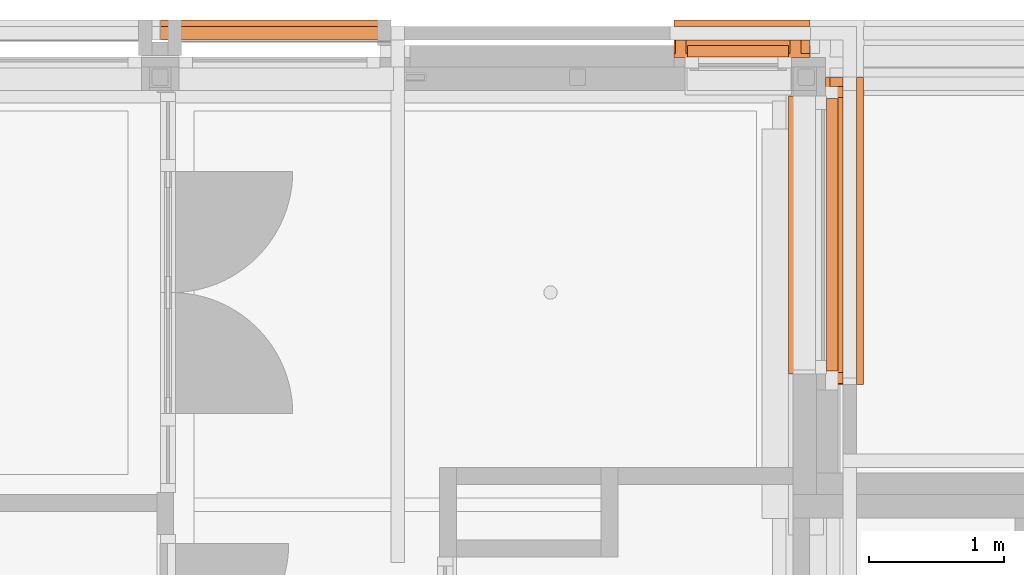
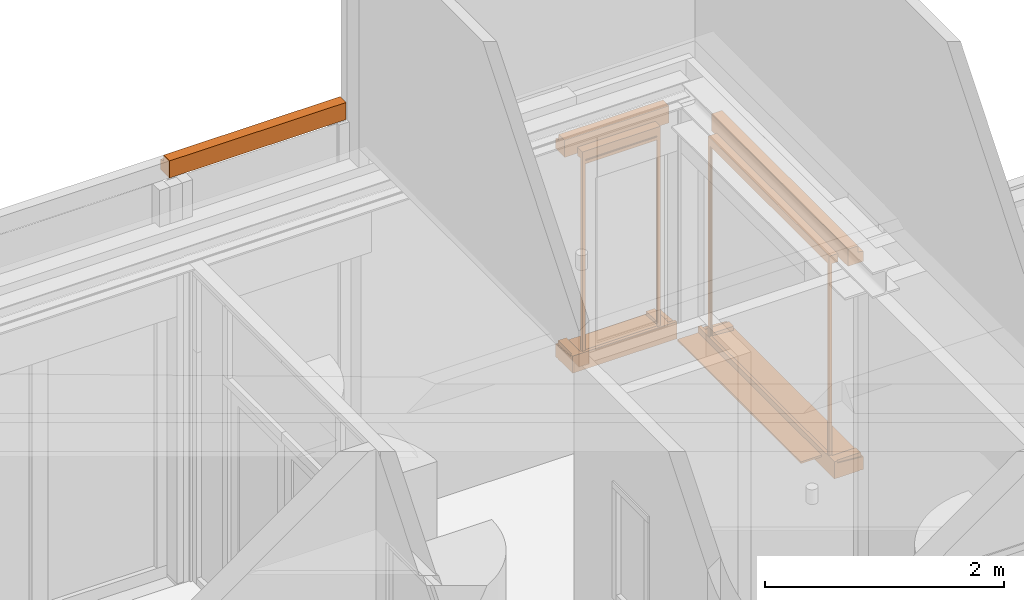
# One storey, part 121 of 128: 8 proxies.
"""IFC2X3 building model written with IfcOpenShell, lengths in millimetres."""

from ifc_helpers import new_model, entity, si_unit, converted_unit, derived_unit, direction, frame, frame_2d, origin, origin_2d_with_axis, place, context, subcontext, project, spatial, polyline, circle_curve, parameter, trimmed, segment, composite_curve, rectangle, outline, extrude, source, transform, mapped, material, material_list, type_object, type_shapes, element, save


model = new_model("IFC2X3")

# Units and contexts
model_context = context("Model", 3, precision=0.01, world=origin(), true_north=direction((6.123031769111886e-17, 1.0)))
body_context = subcontext(model_context, "Body", "Model", "MODEL_VIEW")
ifc_project = project(units=[si_unit("LENGTHUNIT", "METRE", prefix="MILLI"), si_unit("AREAUNIT", "SQUARE_METRE"), si_unit("VOLUMEUNIT", "CUBIC_METRE"), converted_unit("PLANEANGLEUNIT", "DEGREE", entity("IfcRatioMeasure", 0.017453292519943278), si_unit("PLANEANGLEUNIT", "RADIAN"), dimensions=[0, 0, 0, 0, 0, 0, 0]), si_unit("MASSUNIT", "GRAM", prefix="KILO"), derived_unit("MASSDENSITYUNIT", [(si_unit("MASSUNIT", "GRAM", prefix="KILO"), 1), (si_unit("LENGTHUNIT", "METRE"), -3)]), derived_unit("IONCONCENTRATIONUNIT", [(si_unit("MASSUNIT", "GRAM", prefix="KILO"), 1), (si_unit("LENGTHUNIT", "METRE"), -3)]), derived_unit("MOMENTOFINERTIAUNIT", [(si_unit("LENGTHUNIT", "METRE"), 4)]), si_unit("TIMEUNIT", "SECOND"), si_unit("FREQUENCYUNIT", "HERTZ"), si_unit("THERMODYNAMICTEMPERATUREUNIT", "DEGREE_CELSIUS"), derived_unit("THERMALTRANSMITTANCEUNIT", [(si_unit("MASSUNIT", "GRAM", prefix="KILO"), 1), (si_unit("THERMODYNAMICTEMPERATUREUNIT", "KELVIN"), -1), (si_unit("TIMEUNIT", "SECOND"), -3)]), derived_unit("THERMALCONDUCTANCEUNIT", [(si_unit("MASSUNIT", "GRAM", prefix="KILO"), 1), (si_unit("THERMODYNAMICTEMPERATUREUNIT", "KELVIN"), -1), (si_unit("TIMEUNIT", "SECOND"), -3), (si_unit("LENGTHUNIT", "METRE"), 1)]), derived_unit("VOLUMETRICFLOWRATEUNIT", [(si_unit("LENGTHUNIT", "METRE"), 3), (si_unit("TIMEUNIT", "SECOND"), -1)]), derived_unit("MASSFLOWRATEUNIT", [(si_unit("MASSUNIT", "GRAM", prefix="KILO"), 1), (si_unit("TIMEUNIT", "SECOND"), -1)]), derived_unit("ROTATIONALFREQUENCYUNIT", [(si_unit("TIMEUNIT", "SECOND"), -1)]), si_unit("ELECTRICCURRENTUNIT", "AMPERE"), si_unit("ELECTRICVOLTAGEUNIT", "VOLT"), si_unit("POWERUNIT", "WATT"), si_unit("FORCEUNIT", "NEWTON", prefix="KILO"), si_unit("ILLUMINANCEUNIT", "LUX"), si_unit("LUMINOUSFLUXUNIT", "LUMEN"), si_unit("LUMINOUSINTENSITYUNIT", "CANDELA"), derived_unit("USERDEFINED", [(si_unit("MASSUNIT", "GRAM", prefix="KILO"), -1), (si_unit("LENGTHUNIT", "METRE"), -2), (si_unit("TIMEUNIT", "SECOND"), 3), (si_unit("LUMINOUSFLUXUNIT", "LUMEN"), 1)]), derived_unit("USERDEFINED", [(si_unit("MASSUNIT", "GRAM", prefix="KILO"), 1), (si_unit("TIMEUNIT", "SECOND"), -3), (si_unit("LENGTHUNIT", "METRE"), 3), (si_unit("ELECTRICCURRENTUNIT", "AMPERE"), -2)]), derived_unit("SOUNDPOWERUNIT", [(si_unit("MASSUNIT", "GRAM", prefix="KILO"), 1), (si_unit("TIMEUNIT", "SECOND"), -3), (si_unit("LENGTHUNIT", "METRE"), 2)]), derived_unit("SOUNDPRESSUREUNIT", [(si_unit("MASSUNIT", "GRAM", prefix="KILO"), 1), (si_unit("LENGTHUNIT", "METRE"), -1), (si_unit("TIMEUNIT", "SECOND"), -2)]), derived_unit("LINEARVELOCITYUNIT", [(si_unit("LENGTHUNIT", "METRE"), 1), (si_unit("TIMEUNIT", "SECOND"), -1)]), si_unit("PRESSUREUNIT", "PASCAL"), derived_unit("USERDEFINED", [(si_unit("MASSUNIT", "GRAM", prefix="KILO"), 1), (si_unit("LENGTHUNIT", "METRE"), -2), (si_unit("TIMEUNIT", "SECOND"), -2)]), derived_unit("LINEARFORCEUNIT", [(si_unit("MASSUNIT", "GRAM", prefix="KILO"), 1), (si_unit("TIMEUNIT", "SECOND"), -2)]), derived_unit("PLANARFORCEUNIT", [(si_unit("MASSUNIT", "GRAM", prefix="KILO"), 1), (si_unit("LENGTHUNIT", "METRE"), -1), (si_unit("TIMEUNIT", "SECOND"), -2)]), derived_unit("SPECIFICHEATCAPACITYUNIT", [(si_unit("THERMODYNAMICTEMPERATUREUNIT", "KELVIN"), -1), (si_unit("LENGTHUNIT", "METRE"), 2), (si_unit("TIMEUNIT", "SECOND"), -2)]), derived_unit("HEATINGVALUEUNIT", [(si_unit("LENGTHUNIT", "METRE"), 2), (si_unit("TIMEUNIT", "SECOND"), -2)]), derived_unit("VAPORPERMEABILITYUNIT", [(si_unit("LENGTHUNIT", "METRE"), -1), (si_unit("TIMEUNIT", "SECOND"), 1)]), derived_unit("DYNAMICVISCOSITYUNIT", [(si_unit("MASSUNIT", "GRAM", prefix="KILO"), 1), (si_unit("TIMEUNIT", "SECOND"), -1), (si_unit("LENGTHUNIT", "METRE"), -1)]), derived_unit("THERMALEXPANSIONCOEFFICIENTUNIT", [(si_unit("THERMODYNAMICTEMPERATUREUNIT", "KELVIN"), -1)]), derived_unit("MODULUSOFELASTICITYUNIT", [(si_unit("MASSUNIT", "GRAM", prefix="KILO"), 1), (si_unit("LENGTHUNIT", "METRE"), -1), (si_unit("TIMEUNIT", "SECOND"), -2)]), derived_unit("ISOTHERMALMOISTURECAPACITYUNIT", [(si_unit("LENGTHUNIT", "METRE"), 3), (si_unit("MASSUNIT", "GRAM", prefix="KILO"), -1)]), derived_unit("MOISTUREDIFFUSIVITYUNIT", [(si_unit("TIMEUNIT", "SECOND"), -1), (si_unit("LENGTHUNIT", "METRE"), 2)])], contexts=[model_context])

# Site, building, storey
site_placement = place(None, frame((0.0, 300.0, 0.0)))
site = spatial("IfcSite", under=ifc_project, at=site_placement, Name="<Kadastrale nummers>", CompositionType="ELEMENT")
building_placement = place(site_placement, origin())
building = spatial("IfcBuilding", under=site, at=building_placement, CompositionType="ELEMENT")
storey_placement = place(building_placement, frame((0.0, 0.0, 3560.0000331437)))
storey = spatial("IfcBuildingStorey", under=building, at=storey_placement, Name="01 eerste verdieping", CompositionType="ELEMENT", Elevation=3560.0000331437)

# Proxies
ifc_material_1 = material(Name="STAAL_RAL 7006")
ifc_material_2 = material(Name="<Unnamed>")
ifc_material_list = material_list([ifc_material_1, ifc_material_2])
building_element_proxy_type_1 = type_object("IfcBuildingElementProxyType", Name="31_DAT_Screen_zonwering_bak85:31_DAT_Screen_zonwering_bak85", PredefinedType="NOTDEFINED", material=ifc_material_list)
shared_shape_1 = source(origin(), body_context, "Body", "SweptSolid", [
    extrude(outline(polyline([(-60.69864841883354, -53.573897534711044), (20.695945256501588, -53.573897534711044), (20.695945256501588, 1.1216926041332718), (22.501351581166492, 1.1216926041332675), (22.501351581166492, 24.626102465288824), (17.501351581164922, 24.626102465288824), (17.501351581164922, 27.826102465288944), (-60.69864841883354, 27.826102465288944), (-60.69864841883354, -53.573897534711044)])), frame((750.0, -29.62610246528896, 2772.5013515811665), z_axis=(1.0, 0.0, 0.0), x_axis=(0.0, 0.0, -1.0)), (0.0, 0.0, 1.0), 1.9999999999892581),
    extrude(outline(polyline([(-55.832432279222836, -51.08259835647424), (29.167567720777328, -51.08259835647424), (29.167567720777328, 5.412991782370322), (27.362161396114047, 5.412991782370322), (27.362161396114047, -49.28259835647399), (-54.032432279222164, -49.28259835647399), (-54.032432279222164, 32.117401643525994), (24.16756772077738, 32.117401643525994), (24.16756772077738, 28.91740164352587), (29.167567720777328, 28.91740164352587), (29.167567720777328, 33.917401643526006), (-55.832432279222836, 33.917401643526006), (-55.832432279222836, -51.08259835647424)])), frame((0.0, -33.917401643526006, 2779.1675677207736), z_axis=(1.0, 0.0, 0.0), x_axis=(0.0, 0.0, -1.0)), (0.0, 0.0, 1.0), 751.9999999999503),
    extrude(outline(polyline([(-60.69864841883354, -53.573897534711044), (20.695945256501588, -53.573897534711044), (20.695945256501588, 1.1216926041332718), (22.501351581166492, 1.1216926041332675), (22.501351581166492, 24.626102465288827), (17.501351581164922, 24.626102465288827), (17.501351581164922, 27.826102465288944), (-60.69864841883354, 27.826102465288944), (-60.69864841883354, -53.573897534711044)])), frame((0.0, -29.62610246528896, 2772.5013515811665), z_axis=(1.0, 0.0, 0.0), x_axis=(0.0, 0.0, -1.0)), (0.0, 0.0, 1.0), 1.999999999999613),
    extrude(rectangle(XDim=711.9999999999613, YDim=1.163311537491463, at=frame_2d((-2.842170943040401e-14, -2.1094237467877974e-15), x_axis=(1.0, 0.0))), frame((376.0, -20.037293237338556, 2725.117880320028)), (0.0, 0.0, 1.0), 24.882119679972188),
    extrude(outline(composite_curve([segment(polyline([(-7.502327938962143, -23.023758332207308), (7.497672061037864, -23.023758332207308)]), True, "CONTINUOUS"), segment(trimmed(circle_curve(frame_2d((7.497672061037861, -21.523758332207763), x_axis=(0.0, -1.0)), 1.4999999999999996), [parameter(359.99999999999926)], [parameter(90.00000000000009)], True, "PARAMETER"), True, "CONTINUOUS"), segment(polyline([(8.997672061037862, -21.523758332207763), (8.997672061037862, 8.976241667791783)]), True, "CONTINUOUS"), segment(trimmed(circle_curve(frame_2d((5.99767206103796, 8.976241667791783), x_axis=(0.0, -1.0)), 3.0), [parameter(90.00000000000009)], [parameter(172.84454900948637)], True, "PARAMETER"), True, "CONTINUOUS"), segment(polyline([(6.371357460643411, 11.952877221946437), (2.232090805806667, 12.470504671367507)]), True, "CONTINUOUS"), segment(trimmed(circle_curve(frame_2d((2.1399803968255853, 11.733933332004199), x_axis=(0.0, -1.0)), 0.7423083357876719), [parameter(172.87199730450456)], [parameter(323.5235343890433)], True, "PARAMETER"), True, "CONTINUOUS"), segment(trimmed(circle_curve(frame_2d((-0.0023279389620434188, 8.976241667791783), x_axis=(0.0, -1.0)), 2.75), [parameter(217.47327986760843)], [parameter(141.78969998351)], True, "PARAMETER"), False, "CONTINUOUS"), segment(trimmed(circle_curve(frame_2d((-2.144636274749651, 11.733933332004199), x_axis=(0.0, -1.0)), 0.7423083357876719), [parameter(39.207114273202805)], [parameter(187.12800269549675)], True, "PARAMETER"), True, "CONTINUOUS"), segment(polyline([(-2.2367466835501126, 12.470504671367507), (-6.376013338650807, 11.95287722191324)]), True, "CONTINUOUS"), segment(trimmed(circle_curve(frame_2d((-6.002327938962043, 8.976241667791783), x_axis=(0.0, -1.0)), 3.0), [parameter(187.1554509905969)], [parameter(269.9999999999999)], True, "PARAMETER"), True, "CONTINUOUS"), segment(polyline([(-9.002327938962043, 8.976241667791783), (-9.002327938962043, -21.523758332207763)]), True, "CONTINUOUS"), segment(trimmed(circle_curve(frame_2d((-7.502327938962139, -21.523758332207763), x_axis=(0.0, -1.0)), 1.5000000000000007), [parameter(269.9999999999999)], [parameter(359.9999999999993)], True, "PARAMETER"), True, "CONTINUOUS")], self_intersect=False)), frame((20.0, -19.997672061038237, 2718.141638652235), z_axis=(1.0, 0.0, 0.0), x_axis=(0.0, 1.0, 0.0)), (0.0, 0.0, 1.0), 711.9999999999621),
    extrude(outline(polyline([(-14.638298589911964, -16.231574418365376), (-13.138298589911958, -16.231574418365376), (-13.138298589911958, 12.232729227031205), (-6.116685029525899, 12.232729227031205), (-6.116685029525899, -6.231574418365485), (-1.116685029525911, -6.231574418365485), (-1.116685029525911, -4.769580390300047), (-4.579546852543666, -4.769580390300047), (-4.579546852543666, 12.23272922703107), (13.86611127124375, 12.23272922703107), (13.86611127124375, -4.769580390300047), (10.36170141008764, -4.769580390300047), (10.36170141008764, -6.2315744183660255), (15.36170141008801, -6.2315744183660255), (15.36170141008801, 13.768425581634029), (-14.638298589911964, 13.768425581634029), (-14.638298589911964, -16.231574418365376)])), frame((738.2315744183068, -14.638298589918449, 800.0), z_axis=(0.0, 0.0, 1.0), x_axis=(0.0, -1.0, 0.0)), (0.0, 0.0, 1.0), 1950.0000000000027),
    extrude(outline(polyline([(-16.231574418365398, -14.638298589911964), (13.768425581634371, -14.638298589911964), (13.76842558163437, 15.361701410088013), (-6.231574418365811, 15.361701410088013), (-6.231574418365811, 10.361701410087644), (-4.769580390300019, 10.361701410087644), (-4.769580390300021, 13.866111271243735), (12.2327292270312, 13.866111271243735), (12.2327292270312, -4.57954685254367), (-4.769580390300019, -4.57954685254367), (-4.769580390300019, -1.1166850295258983), (-6.231574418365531, -1.1166850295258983), (-6.231574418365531, -6.116685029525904), (12.232729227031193, -6.116685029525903), (12.232729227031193, -13.138298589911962), (-16.231574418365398, -13.138298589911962), (-16.231574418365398, -14.638298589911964)])), frame((13.768425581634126, -14.638298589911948, 800.0), z_axis=(0.0, 0.0, 1.0), x_axis=(-1.0, 0.0, 0.0)), (0.0, 0.0, 1.0), 1950.0000000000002),
])
type_shapes(building_element_proxy_type_1, [shared_shape_1])
proxy_1_placement = place(storey_placement, frame((41270.0, 49951.0, 100.00000187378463), z_axis=(0.0, 0.0, 1.0), x_axis=(-1.0, 0.0, 0.0)))
element("IfcBuildingElementProxy", 1, at=proxy_1_placement, inside=storey, type_object=building_element_proxy_type_1, material=ifc_material_list, Name="31_DAT_Screen_zonwering_bak85:31_DAT_Screen_zonwering_bak85", ObjectType="31_DAT_Screen_zonwering_bak85:31_DAT_Screen_zonwering_bak85", context=body_context, shape_type="MappedRepresentation", body=[
    mapped(shared_shape_1, transform((0.0, 0.0, 0.0), scale=1.0)),
])
ifc_material_3 = material(Name="ISR_Beton_prefab")
building_element_proxy_type_2 = type_object("IfcBuildingElementProxyType", Name="29_DAT_Prefab betonband afgeschuind:29_DAT_Prefab betonband afgeschuind", PredefinedType="NOTDEFINED", material=ifc_material_3)
shared_shape_2 = source(origin(), body_context, "Body", "SweptSolid", [
    extrude(outline(polyline([(-94.16666666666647, -83.33333333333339), (80.83333333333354, -83.33333333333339), (80.83333333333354, 16.66666666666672), (18.33333333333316, 16.666666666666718), (8.333333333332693, 66.66666666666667), (-94.16666666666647, 66.66666666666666), (-94.16666666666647, -83.33333333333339)])), frame((0.0, 16.66666666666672, -18.33333333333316), z_axis=(1.0, 0.0, 0.0), x_axis=(0.0, 0.0, 1.0)), (0.0, 0.0, 1.0), 1009.0000000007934),
])
type_shapes(building_element_proxy_type_2, [shared_shape_2])
proxy_2_placement = place(storey_placement, frame((41427.0, 50175.0, 2952.499966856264), z_axis=(0.0, 0.0, 1.0), x_axis=(-1.0, 0.0, 0.0)))
element("IfcBuildingElementProxy", 2, at=proxy_2_placement, inside=storey, type_object=building_element_proxy_type_2, material=ifc_material_3, Name="29_DAT_Prefab betonband afgeschuind:29_DAT_Prefab betonband afgeschuind", ObjectType="29_DAT_Prefab betonband afgeschuind:29_DAT_Prefab betonband afgeschuind", context=body_context, shape_type="MappedRepresentation", body=[
    mapped(shared_shape_2, transform((0.0, 0.0, 0.0), scale=1.0)),
])
building_element_proxy_type_3 = type_object("IfcBuildingElementProxyType", Name="29_DAT_Prefab betonnen waterslag lang:23", PredefinedType="NOTDEFINED", material=ifc_material_3)
shared_shape_3 = source(origin(), body_context, "Body", "SweptSolid", [
    extrude(outline(polyline([(-16.052237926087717, -115.0), (26.113434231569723, -115.0), (5.9910416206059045, 115.0), (-16.052237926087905, 115.0), (-16.052237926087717, -115.0)])), frame((2134.0, 75.0, -16.05223792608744), z_axis=(1.0, 0.0, 0.0), x_axis=(0.0, 0.0, -1.0)), (0.0, 0.0, 1.0), 79.99999999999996),
    extrude(outline(polyline([(-16.052237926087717, -115.0), (26.113434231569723, -115.0), (5.9910416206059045, 115.0), (-16.052237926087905, 115.0), (-16.052237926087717, -115.0)])), frame((10.0, 75.0, -16.05223792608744), z_axis=(1.0, 0.0, 0.0), x_axis=(0.0, 0.0, -1.0)), (0.0, 0.0, 1.0), 80.00000000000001),
    extrude(outline(composite_curve([segment(polyline([(-140.0, -95.7340207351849), (-110.0, -95.7340207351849)]), True, "CONTINUOUS"), segment(polyline([(-110.0, -95.7340207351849), (-110.0, -73.7340207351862)]), True, "CONTINUOUS"), segment(polyline([(-110.0, -73.7340207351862), (140.0, -51.861854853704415)]), True, "CONTINUOUS"), segment(polyline([(140.0, -51.86185485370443), (140.0, 79.26597926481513)]), True, "CONTINUOUS"), segment(polyline([(140.0, 79.26597926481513), (115.0, 79.26597926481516)]), True, "CONTINUOUS"), segment(trimmed(circle_curve(frame_2d((110.0, 79.26597926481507), x_axis=(1.0, 0.0)), 5.000000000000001), [parameter(179.99999999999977)], [parameter(4.0711099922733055e-13)], True, "PARAMETER"), False, "CONTINUOUS"), segment(polyline([(105.0, 79.26597926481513), (-140.0, 79.26597926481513)]), True, "CONTINUOUS"), segment(polyline([(-140.0, 79.26597926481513), (-140.0, -95.7340207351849)]), True, "CONTINUOUS")], self_intersect=False)), frame((0.0, 80.0, -95.73402073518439), z_axis=(1.0, 0.0, 0.0), x_axis=(0.0, -1.0, 0.0)), (0.0, 0.0, 1.0), 2281.0000000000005),
])
type_shapes(building_element_proxy_type_3, [shared_shape_3])
proxy_3_placement = place(storey_placement, frame((41765.0, 47516.0, 890.0000018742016), z_axis=(0.0, 0.0, 1.0), x_axis=(0.0, 1.0, 0.0)))
element("IfcBuildingElementProxy", 3, at=proxy_3_placement, inside=storey, type_object=building_element_proxy_type_3, material=ifc_material_3, Name="29_DAT_Prefab betonnen waterslag lang:23", ObjectType="29_DAT_Prefab betonnen waterslag lang:23", context=body_context, shape_type="MappedRepresentation", body=[
    mapped(shared_shape_3, transform((0.0, 0.0, 0.0), scale=1.0)),
])
building_element_proxy_type_4 = type_object("IfcBuildingElementProxyType", Name="31_DAT_Screen_zonwering_bak85:31_DAT_Screen_zonwering_bak85", PredefinedType="NOTDEFINED", material=ifc_material_list)
shared_shape_4 = source(origin(), body_context, "Body", "SweptSolid", [
    extrude(outline(polyline([(-60.69864841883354, -53.573897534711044), (20.695945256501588, -53.573897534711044), (20.695945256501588, 1.1216926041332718), (22.501351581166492, 1.1216926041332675), (22.501351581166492, 24.626102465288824), (17.501351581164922, 24.626102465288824), (17.501351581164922, 27.826102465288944), (-60.69864841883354, 27.826102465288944), (-60.69864841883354, -53.573897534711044)])), frame((2022.0, -29.62610246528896, 2772.5013515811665), z_axis=(1.0, 0.0, 0.0), x_axis=(0.0, 0.0, -1.0)), (0.0, 0.0, 1.0), 1.999999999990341),
    extrude(outline(polyline([(-55.832432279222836, -51.08259835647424), (29.167567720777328, -51.08259835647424), (29.167567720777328, 5.412991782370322), (27.362161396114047, 5.412991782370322), (27.362161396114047, -49.28259835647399), (-54.032432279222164, -49.28259835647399), (-54.032432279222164, 32.117401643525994), (24.16756772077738, 32.117401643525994), (24.16756772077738, 28.91740164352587), (29.167567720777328, 28.91740164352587), (29.167567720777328, 33.917401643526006), (-55.832432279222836, 33.917401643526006), (-55.832432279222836, -51.08259835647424)])), frame((0.0, -33.917401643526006, 2779.1675677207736), z_axis=(1.0, 0.0, 0.0), x_axis=(0.0, 0.0, -1.0)), (0.0, 0.0, 1.0), 2024.0000000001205),
    extrude(outline(polyline([(-60.69864841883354, -53.573897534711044), (20.695945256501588, -53.573897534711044), (20.695945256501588, 1.1216926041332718), (22.501351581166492, 1.1216926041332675), (22.501351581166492, 24.626102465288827), (17.501351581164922, 24.626102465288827), (17.501351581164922, 27.826102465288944), (-60.69864841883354, 27.826102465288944), (-60.69864841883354, -53.573897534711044)])), frame((0.0, -29.62610246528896, 2772.5013515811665), z_axis=(1.0, 0.0, 0.0), x_axis=(0.0, 0.0, -1.0)), (0.0, 0.0, 1.0), 1.999999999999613),
    extrude(rectangle(XDim=1984.0000000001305, YDim=1.163311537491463, at=frame_2d((0.0, -2.1094237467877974e-15), x_axis=(1.0, 0.0))), frame((1012.0, -20.037293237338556, 2750.0)), (0.0, 0.0, 1.0), 19.999964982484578),
    extrude(outline(composite_curve([segment(polyline([(-7.502327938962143, -23.023758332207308), (7.497672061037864, -23.023758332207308)]), True, "CONTINUOUS"), segment(trimmed(circle_curve(frame_2d((7.497672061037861, -21.5237583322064), x_axis=(0.0, -1.0)), 1.4999999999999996), [parameter(359.99999999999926)], [parameter(90.00000000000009)], True, "PARAMETER"), True, "CONTINUOUS"), segment(polyline([(8.997672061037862, -21.523758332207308), (8.997672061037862, 8.976241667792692)]), True, "CONTINUOUS"), segment(trimmed(circle_curve(frame_2d((5.99767206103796, 8.976241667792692), x_axis=(0.0, -1.0)), 3.0), [parameter(90.00000000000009)], [parameter(172.84454900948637)], True, "PARAMETER"), True, "CONTINUOUS"), segment(polyline([(6.371357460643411, 11.952877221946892), (2.232090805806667, 12.470504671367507)]), True, "CONTINUOUS"), segment(trimmed(circle_curve(frame_2d((2.1399803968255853, 11.733933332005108), x_axis=(0.0, -1.0)), 0.7423083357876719), [parameter(172.87199730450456)], [parameter(323.5235343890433)], True, "PARAMETER"), True, "CONTINUOUS"), segment(trimmed(circle_curve(frame_2d((-0.0023279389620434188, 8.976241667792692), x_axis=(0.0, -1.0)), 2.75), [parameter(217.47327986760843)], [parameter(141.78969998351)], True, "PARAMETER"), False, "CONTINUOUS"), segment(trimmed(circle_curve(frame_2d((-2.144636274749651, 11.733933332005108), x_axis=(0.0, -1.0)), 0.7423083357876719), [parameter(39.207114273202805)], [parameter(187.12800269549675)], True, "PARAMETER"), True, "CONTINUOUS"), segment(polyline([(-2.2367466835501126, 12.470504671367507), (-6.376013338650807, 11.95287722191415)]), True, "CONTINUOUS"), segment(trimmed(circle_curve(frame_2d((-6.002327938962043, 8.976241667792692), x_axis=(0.0, -1.0)), 3.0), [parameter(187.1554509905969)], [parameter(269.9999999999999)], True, "PARAMETER"), True, "CONTINUOUS"), segment(polyline([(-9.002327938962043, 8.976241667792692), (-9.002327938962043, -21.523758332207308)]), True, "CONTINUOUS"), segment(trimmed(circle_curve(frame_2d((-7.502327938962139, -21.5237583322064), x_axis=(0.0, -1.0)), 1.5000000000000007), [parameter(269.9999999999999)], [parameter(359.9999999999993)], True, "PARAMETER"), True, "CONTINUOUS")], self_intersect=False)), frame((20.0, -19.997672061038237, 2763.0237233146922), z_axis=(1.0, 0.0, 0.0), x_axis=(0.0, 1.0, 0.0)), (0.0, 0.0, 1.0), 1984.000000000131),
    extrude(outline(polyline([(-14.638298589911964, -16.231574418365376), (-13.138298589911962, -16.231574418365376), (-13.138298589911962, 12.23272922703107), (-6.116685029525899, 12.23272922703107), (-6.116685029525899, -6.231574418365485), (-1.116685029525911, -6.231574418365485), (-1.116685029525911, -4.769580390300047), (-4.579546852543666, -4.769580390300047), (-4.579546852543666, 12.23272922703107), (13.86611127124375, 12.23272922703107), (13.86611127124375, -4.769580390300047), (10.36170141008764, -4.769580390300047), (10.36170141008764, -6.2315744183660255), (15.36170141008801, -6.2315744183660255), (15.36170141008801, 13.768425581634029), (-14.638298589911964, 13.768425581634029), (-14.638298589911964, -16.231574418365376)])), frame((2010.2315744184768, -14.638298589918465, 800.0), z_axis=(0.0, 0.0, 1.0), x_axis=(0.0, -1.0, 0.0)), (0.0, 0.0, 1.0), 1950.0000000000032),
    extrude(outline(polyline([(-16.231574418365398, -14.638298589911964), (13.768425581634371, -14.638298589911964), (13.76842558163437, 15.361701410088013), (-6.231574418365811, 15.361701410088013), (-6.231574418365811, 10.361701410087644), (-4.769580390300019, 10.361701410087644), (-4.769580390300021, 13.866111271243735), (12.2327292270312, 13.866111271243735), (12.2327292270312, -4.57954685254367), (-4.769580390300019, -4.57954685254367), (-4.769580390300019, -1.1166850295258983), (-6.231574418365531, -1.1166850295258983), (-6.231574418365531, -6.116685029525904), (12.232729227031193, -6.116685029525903), (12.232729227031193, -13.138298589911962), (-16.231574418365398, -13.138298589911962), (-16.231574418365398, -14.638298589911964)])), frame((13.768425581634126, -14.638298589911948, 800.0), z_axis=(0.0, 0.0, 1.0), x_axis=(-1.0, 0.0, 0.0)), (0.0, 0.0, 1.0), 1950.0000000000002),
])
type_shapes(building_element_proxy_type_4, [shared_shape_4])
proxy_4_placement = place(storey_placement, frame((41551.0, 47616.0, 90.00000187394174), z_axis=(0.0, 0.0, 1.0), x_axis=(0.0, 1.0, 0.0)))
element("IfcBuildingElementProxy", 4, at=proxy_4_placement, inside=storey, type_object=building_element_proxy_type_4, material=ifc_material_list, Name="31_DAT_Screen_zonwering_bak85:31_DAT_Screen_zonwering_bak85", ObjectType="31_DAT_Screen_zonwering_bak85:31_DAT_Screen_zonwering_bak85", context=body_context, shape_type="MappedRepresentation", body=[
    mapped(shared_shape_4, transform((0.0, 0.0, 0.0), scale=1.0)),
])
building_element_proxy_type_5 = type_object("IfcBuildingElementProxyType", Name="29_DAT_Prefab betonband afgeschuind:29_DAT_Prefab betonband afgeschuind", PredefinedType="NOTDEFINED", material=ifc_material_3)
shared_shape_5 = source(origin(), body_context, "Body", "SweptSolid", [
    extrude(outline(polyline([(-94.16666666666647, -83.33333333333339), (80.83333333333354, -83.33333333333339), (80.83333333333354, 16.66666666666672), (18.33333333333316, 16.666666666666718), (8.333333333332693, 66.66666666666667), (-94.16666666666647, 66.66666666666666), (-94.16666666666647, -83.33333333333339)])), frame((0.0, 16.66666666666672, -18.33333333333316), z_axis=(1.0, 0.0, 0.0), x_axis=(0.0, 0.0, 1.0)), (0.0, 0.0, 1.0), 2281.0000000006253),
])
type_shapes(building_element_proxy_type_5, [shared_shape_5])
proxy_5_placement = place(storey_placement, frame((41775.0, 47516.0, 2952.4999668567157), z_axis=(0.0, 0.0, 1.0), x_axis=(0.0, 1.0, 0.0)))
element("IfcBuildingElementProxy", 5, at=proxy_5_placement, inside=storey, type_object=building_element_proxy_type_5, material=ifc_material_3, Name="29_DAT_Prefab betonband afgeschuind:29_DAT_Prefab betonband afgeschuind", ObjectType="29_DAT_Prefab betonband afgeschuind:29_DAT_Prefab betonband afgeschuind", context=body_context, shape_type="MappedRepresentation", body=[
    mapped(shared_shape_5, transform((0.0, 0.0, 0.0), scale=1.0)),
])
building_element_proxy_type_6 = type_object("IfcBuildingElementProxyType", Name="29_DAT_Prefab betonnen waterslag lang:30", PredefinedType="NOTDEFINED", material=ifc_material_3)
shared_shape_6 = source(origin(), body_context, "Body", "SweptSolid", [
    extrude(outline(polyline([(-115.0, -16.052237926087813), (115.0, -16.05223792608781), (115.0, 5.991041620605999), (-115.0, 26.113434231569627), (-115.0, -16.052237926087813)])), frame((862.0, -75.0, -16.05223792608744), z_axis=(1.0, 0.0, 0.0), x_axis=(0.0, -1.0, 0.0)), (0.0, 0.0, 1.0), 79.99999999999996),
    extrude(outline(polyline([(-115.0, -16.052237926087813), (115.0, -16.05223792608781), (115.0, 5.991041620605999), (-115.0, 26.113434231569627), (-115.0, -16.052237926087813)])), frame((10.0, -75.0, -16.05223792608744), z_axis=(1.0, 0.0, 0.0), x_axis=(0.0, -1.0, 0.0)), (0.0, 0.0, 1.0), 80.00000000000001),
    extrude(outline(composite_curve([segment(polyline([(-95.7340207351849, -140.0), (79.26597926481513, -140.0)]), True, "CONTINUOUS"), segment(polyline([(79.26597926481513, -140.0), (79.26597926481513, 105.0)]), True, "CONTINUOUS"), segment(trimmed(circle_curve(frame_2d((79.26597926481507, 110.0), x_axis=(0.0, 1.0)), 5.000000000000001), [parameter(359.9999999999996)], [parameter(180.00000000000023)], True, "PARAMETER"), False, "CONTINUOUS"), segment(polyline([(79.26597926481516, 115.0), (79.26597926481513, 140.0)]), True, "CONTINUOUS"), segment(polyline([(79.26597926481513, 140.0), (-51.86185485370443, 140.0)]), True, "CONTINUOUS"), segment(polyline([(-51.861854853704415, 140.0), (-73.7340207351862, -110.0)]), True, "CONTINUOUS"), segment(polyline([(-73.7340207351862, -110.0), (-95.7340207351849, -110.0)]), True, "CONTINUOUS"), segment(polyline([(-95.7340207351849, -110.0), (-95.7340207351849, -140.0)]), True, "CONTINUOUS")], self_intersect=False)), frame((0.0, -80.0, -95.73402073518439), z_axis=(1.0, 0.0, 0.0), x_axis=(0.0, 0.0, -1.0)), (0.0, 0.0, 1.0), 1009.0000000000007),
])
type_shapes(building_element_proxy_type_6, [shared_shape_6])
proxy_6_placement = place(storey_placement, frame((40418.0, 50165.0, 890.0000018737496)))
element("IfcBuildingElementProxy", 6, at=proxy_6_placement, inside=storey, type_object=building_element_proxy_type_6, material=ifc_material_3, Name="29_DAT_Prefab betonnen waterslag lang:30", ObjectType="29_DAT_Prefab betonnen waterslag lang:30", context=body_context, shape_type="MappedRepresentation", body=[
    mapped(shared_shape_6, transform((0.0, 0.0, 0.0), scale=1.0)),
])
building_element_proxy_type_7 = type_object("IfcBuildingElementProxyType", Name="29_DAT_Prefab betonband afgeschuind:29_DAT_Prefab betonband afgeschuind", PredefinedType="NOTDEFINED", material=ifc_material_3)
shared_shape_7 = source(origin(), body_context, "Body", "SweptSolid", [
    extrude(outline(polyline([(-83.33333333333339, -94.16666666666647), (66.66666666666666, -94.16666666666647), (66.66666666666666, 8.333333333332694), (16.66666666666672, 18.33333333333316), (16.666666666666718, 80.83333333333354), (-83.33333333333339, 80.83333333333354), (-83.33333333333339, -94.16666666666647)])), frame((0.0, -16.66666666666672, -18.33333333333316), z_axis=(1.0, 0.0, 0.0), x_axis=(0.0, 1.0, 0.0)), (0.0, 0.0, 1.0), 1706.00000000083),
])
type_shapes(building_element_proxy_type_7, [shared_shape_7])
proxy_7_placement = place(storey_placement, frame((36603.0, 50175.0, 4077.4999668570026)))
element("IfcBuildingElementProxy", 7, at=proxy_7_placement, inside=storey, type_object=building_element_proxy_type_7, material=ifc_material_3, Name="29_DAT_Prefab betonband afgeschuind:29_DAT_Prefab betonband afgeschuind", ObjectType="29_DAT_Prefab betonband afgeschuind:29_DAT_Prefab betonband afgeschuind", context=body_context, shape_type="MappedRepresentation", body=[
    mapped(shared_shape_7, transform((0.0, 0.0, 0.0), scale=1.0)),
])
ifc_material_4 = material(Name="e1_natuursteen")
building_element_proxy_type_8 = type_object("IfcBuildingElementProxyType", Name="NLRS_31_GM_WPB_vensterbank natuursteen -SH_gen_ASN:200x18", PredefinedType="USERDEFINED", material=ifc_material_4)
shared_shape_8 = source(origin(), body_context, "Body", "SweptSolid", [
    extrude(rectangle(XDim=200.0, YDim=2063.999999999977, at=origin_2d_with_axis()), frame((0.0, -100.0, 0.0), z_axis=(0.0, 0.0, 1.0), x_axis=(0.0, -1.0, 0.0)), (0.0, 0.0, 1.0), 17.999999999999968),
])
type_shapes(building_element_proxy_type_8, [shared_shape_8])
proxy_8_placement = place(storey_placement, frame((41468.0, 48628.0, 920.0000018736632), z_axis=(0.0, 0.0, 1.0), x_axis=(0.0, -1.0, 0.0)))
element("IfcBuildingElementProxy", 8, at=proxy_8_placement, inside=storey, type_object=building_element_proxy_type_8, material=ifc_material_4, Name="NLRS_31_GM_WPB_vensterbank natuursteen -SH_gen_ASN:200x18", ObjectType="NLRS_31_GM_WPB_vensterbank natuursteen -SH_gen_ASN:200x18", context=body_context, shape_type="MappedRepresentation", body=[
    mapped(shared_shape_8, transform((0.0, 0.0, 0.0), scale=1.0)),
])

save(model, "model.ifc")
